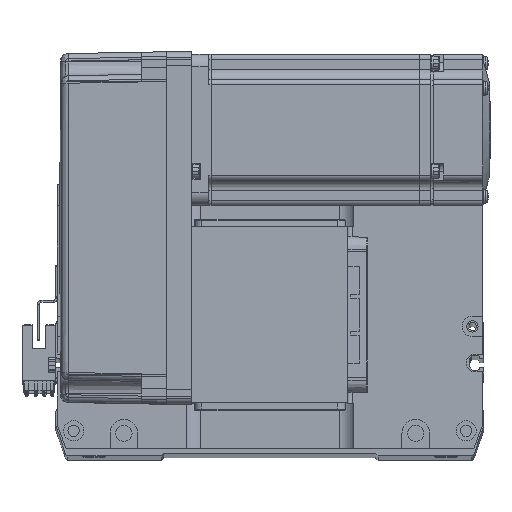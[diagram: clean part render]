
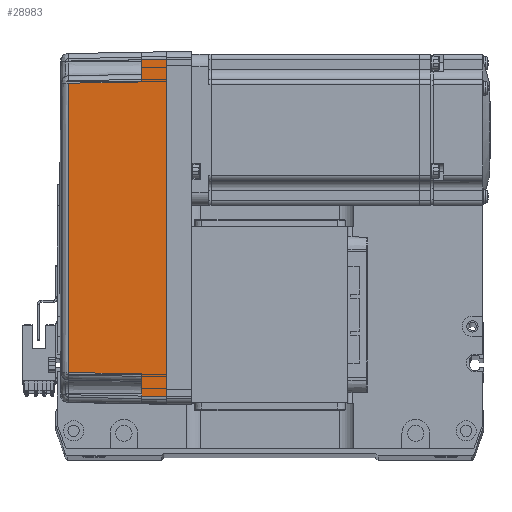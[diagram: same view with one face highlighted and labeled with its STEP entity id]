
A CAD part, top view. The second image highlights one B-rep face of the part: STEP entity #28983.
In plain terms, the highlighted planar face has unit normal (-0.018, 0, 1) as drawn and (0, 1, 0.017) by its records, which use the part's own axes.
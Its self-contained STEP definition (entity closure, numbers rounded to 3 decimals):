
#805 = VECTOR ( 'NONE', #54769, 1000. ) ;
#3692 = DIRECTION ( 'NONE',  ( -0.017, -0.017, 1. ) ) ;
#5222 = CARTESIAN_POINT ( 'NONE',  ( 57.495, 35.32, 38.985 ) ) ;
#6754 = CARTESIAN_POINT ( 'NONE',  ( -67., 36., 0. ) ) ;
#8067 = LINE ( 'NONE', #23328, #21034 ) ;
#8718 = VECTOR ( 'NONE', #18131, 1000. ) ;
#9285 = LINE ( 'NONE', #5222, #33642 ) ;
#9797 = CARTESIAN_POINT ( 'NONE',  ( -67., 36., 0. ) ) ;
#11964 = CARTESIAN_POINT ( 'NONE',  ( 0., 36., 0. ) ) ;
#12237 = VERTEX_POINT ( 'NONE', #50459 ) ;
#12405 = EDGE_CURVE ( 'NONE', #38714, #31942, #26270, .T. ) ;
#13028 = ORIENTED_EDGE ( 'NONE', *, *, #12405, .T. ) ;
#13191 = DIRECTION ( 'NONE',  ( 1., 0., 0. ) ) ;
#14930 = CARTESIAN_POINT ( 'NONE',  ( -57.495, 35.32, 38.985 ) ) ;
#16618 = EDGE_CURVE ( 'NONE', #35917, #19236, #51126, .T. ) ;
#17555 = VECTOR ( 'NONE', #47789, 1000. ) ;
#18131 = DIRECTION ( 'NONE',  ( 0.017, -0.017, 1. ) ) ;
#19047 = ORIENTED_EDGE ( 'NONE', *, *, #43799, .T. ) ;
#19108 = CARTESIAN_POINT ( 'NONE',  ( 70., 36., 0. ) ) ;
#19236 = VERTEX_POINT ( 'NONE', #36314 ) ;
#19929 = CARTESIAN_POINT ( 'NONE',  ( -66.826, 35.825, 10. ) ) ;
#20748 = CARTESIAN_POINT ( 'NONE',  ( 70., 35.825, 10. ) ) ;
#21034 = VECTOR ( 'NONE', #3692, 1000. ) ;
#22614 = DIRECTION ( 'NONE',  ( 1., 0., 0. ) ) ;
#23328 = CARTESIAN_POINT ( 'NONE',  ( 67.001, 36.001, -0.052 ) ) ;
#23785 = LINE ( 'NONE', #11964, #33628 ) ;
#26270 = LINE ( 'NONE', #9797, #8718 ) ;
#27023 = ORIENTED_EDGE ( 'NONE', *, *, #16618, .T. ) ;
#27282 = CARTESIAN_POINT ( 'NONE',  ( 58., 35.825, 10. ) ) ;
#28048 = FACE_OUTER_BOUND ( 'NONE', #46268, .T. ) ;
#28983 = ADVANCED_FACE ( 'NONE', ( #28048 ), #34368, .T. ) ;
#29491 = DIRECTION ( 'NONE',  ( 0., 1., 0.017 ) ) ;
#31073 = LINE ( 'NONE', #38010, #17555 ) ;
#31823 = EDGE_CURVE ( 'NONE', #54992, #35917, #9285, .T. ) ;
#31942 = VERTEX_POINT ( 'NONE', #19929 ) ;
#33628 = VECTOR ( 'NONE', #22614, 1000. ) ;
#33642 = VECTOR ( 'NONE', #53745, 1000. ) ;
#34368 = PLANE ( 'NONE',  #45015 ) ;
#34431 = CARTESIAN_POINT ( 'NONE',  ( 57.495, 35.32, 38.985 ) ) ;
#35917 = VERTEX_POINT ( 'NONE', #27282 ) ;
#36231 = ORIENTED_EDGE ( 'NONE', *, *, #31823, .T. ) ;
#36314 = CARTESIAN_POINT ( 'NONE',  ( 66.826, 35.825, 10. ) ) ;
#38010 = CARTESIAN_POINT ( 'NONE',  ( -58., 35.825, 10. ) ) ;
#38714 = VERTEX_POINT ( 'NONE', #6754 ) ;
#39265 = ORIENTED_EDGE ( 'NONE', *, *, #42973, .F. ) ;
#40744 = ORIENTED_EDGE ( 'NONE', *, *, #41072, .F. ) ;
#41072 = EDGE_CURVE ( 'NONE', #45869, #19236, #8067, .T. ) ;
#42973 = EDGE_CURVE ( 'NONE', #38714, #45869, #23785, .T. ) ;
#43048 = VERTEX_POINT ( 'NONE', #14930 ) ;
#43099 = EDGE_CURVE ( 'NONE', #43048, #54992, #44892, .T. ) ;
#43654 = CARTESIAN_POINT ( 'NONE',  ( -57.495, 35.32, 38.985 ) ) ;
#43799 = EDGE_CURVE ( 'NONE', #31942, #12237, #60163, .T. ) ;
#44892 = B_SPLINE_CURVE_WITH_KNOTS ( 'NONE', 3,
 ( #43654, #58676, #48711, #34431 ),
 .UNSPECIFIED., .F., .F.,
 ( 4, 4 ),
 ( 0., 1. ),
 .UNSPECIFIED. ) ;
#45015 = AXIS2_PLACEMENT_3D ( 'NONE', #19108, #29491, #53324 ) ;
#45471 = CARTESIAN_POINT ( 'NONE',  ( 67., 36., 0. ) ) ;
#45869 = VERTEX_POINT ( 'NONE', #45471 ) ;
#46268 = EDGE_LOOP ( 'NONE', ( #13028, #19047, #60467, #61088, #36231, #27023, #40744, #39265 ) ) ;
#47789 = DIRECTION ( 'NONE',  ( 0.017, -0.017, 1. ) ) ;
#48711 = CARTESIAN_POINT ( 'NONE',  ( 19.165, 35.316, 39.181 ) ) ;
#50332 = CARTESIAN_POINT ( 'NONE',  ( 57.495, 35.32, 38.985 ) ) ;
#50459 = CARTESIAN_POINT ( 'NONE',  ( -58., 35.825, 10. ) ) ;
#51048 = EDGE_CURVE ( 'NONE', #12237, #43048, #31073, .T. ) ;
#51126 = LINE ( 'NONE', #51687, #61738 ) ;
#51687 = CARTESIAN_POINT ( 'NONE',  ( 70., 35.825, 10. ) ) ;
#53324 = DIRECTION ( 'NONE',  ( 0., -0.017, 1. ) ) ;
#53745 = DIRECTION ( 'NONE',  ( 0.017, 0.017, -1. ) ) ;
#54769 = DIRECTION ( 'NONE',  ( 1., 0., 0. ) ) ;
#54992 = VERTEX_POINT ( 'NONE', #50332 ) ;
#58676 = CARTESIAN_POINT ( 'NONE',  ( -19.165, 35.316, 39.181 ) ) ;
#60163 = LINE ( 'NONE', #20748, #805 ) ;
#60467 = ORIENTED_EDGE ( 'NONE', *, *, #51048, .T. ) ;
#61088 = ORIENTED_EDGE ( 'NONE', *, *, #43099, .T. ) ;
#61738 = VECTOR ( 'NONE', #13191, 1000. ) ;
